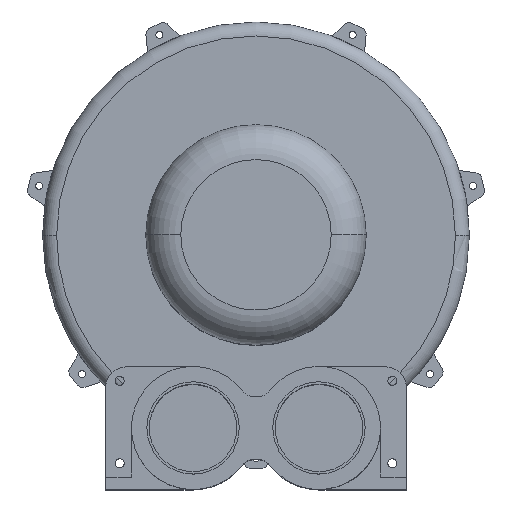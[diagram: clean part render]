
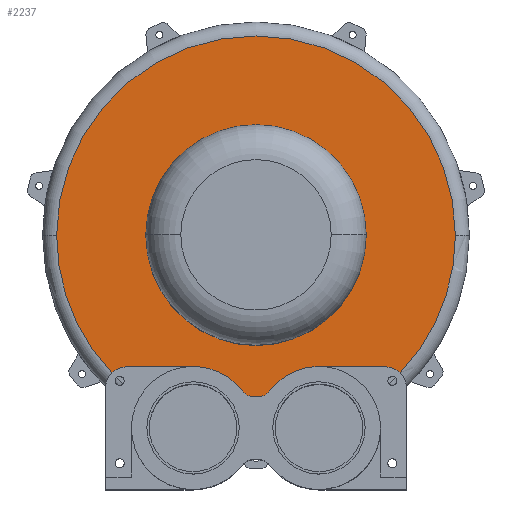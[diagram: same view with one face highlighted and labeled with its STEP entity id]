
A CAD part, top view. The second image highlights one B-rep face of the part: STEP entity #2237.
In plain terms, the highlighted planar face has unit normal (0, 0, 1).
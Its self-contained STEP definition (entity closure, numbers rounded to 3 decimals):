
#11 = CARTESIAN_POINT ( 'NONE',  ( -157.5, 0., 95. ) ) ;
#51 = DIRECTION ( 'NONE',  ( -1., 0., 0. ) ) ;
#64 = ORIENTED_EDGE ( 'NONE', *, *, #4167, .T. ) ;
#113 = ORIENTED_EDGE ( 'NONE', *, *, #3555, .F. ) ;
#132 = DIRECTION ( 'NONE',  ( 0., 0., 1. ) ) ;
#165 = AXIS2_PLACEMENT_3D ( 'NONE', #4765, #2497, #170 ) ;
#170 = DIRECTION ( 'NONE',  ( 1., 0., 0. ) ) ;
#225 = CARTESIAN_POINT ( 'NONE',  ( 0., 0., 95. ) ) ;
#250 = CIRCLE ( 'NONE', #4587, 30. ) ;
#251 = ORIENTED_EDGE ( 'NONE', *, *, #2907, .F. ) ;
#263 = CARTESIAN_POINT ( 'NONE',  ( 0., 0., 95. ) ) ;
#280 = CARTESIAN_POINT ( 'NONE',  ( 185., -218., 95. ) ) ;
#301 = AXIS2_PLACEMENT_3D ( 'NONE', #3955, #1663, #4335 ) ;
#545 = LINE ( 'NONE', #3560, #4632 ) ;
#626 = CIRCLE ( 'NONE', #1360, 88. ) ;
#628 = DIRECTION ( 'NONE',  ( 1., 0., 0. ) ) ;
#643 = VERTEX_POINT ( 'NONE', #2839 ) ;
#664 = DIRECTION ( 'NONE',  ( 1., 0., 0. ) ) ;
#682 = DIRECTION ( 'NONE',  ( 1., 0., 0. ) ) ;
#731 = AXIS2_PLACEMENT_3D ( 'NONE', #791, #3512, #1192 ) ;
#768 = CARTESIAN_POINT ( 'NONE',  ( 0., 0., 95. ) ) ;
#791 = CARTESIAN_POINT ( 'NONE',  ( -6.28, -216., 95. ) ) ;
#884 = VERTEX_POINT ( 'NONE', #3000 ) ;
#967 = AXIS2_PLACEMENT_3D ( 'NONE', #768, #3475, #1163 ) ;
#976 = CARTESIAN_POINT ( 'NONE',  ( 185., -188., 95. ) ) ;
#997 = AXIS2_PLACEMENT_3D ( 'NONE', #4646, #2364, #51 ) ;
#1030 = CARTESIAN_POINT ( 'NONE',  ( 185., -188., 95. ) ) ;
#1148 = CARTESIAN_POINT ( 'NONE',  ( -185., -218., 95. ) ) ;
#1163 = DIRECTION ( 'NONE',  ( 1., 0., 0. ) ) ;
#1192 = DIRECTION ( 'NONE',  ( -1., 0., 0. ) ) ;
#1237 = CIRCLE ( 'NONE', #967, 157.5 ) ;
#1360 = AXIS2_PLACEMENT_3D ( 'NONE', #2459, #132, #2854 ) ;
#1389 = VERTEX_POINT ( 'NONE', #1706 ) ;
#1399 = ORIENTED_EDGE ( 'NONE', *, *, #3351, .F. ) ;
#1537 = DIRECTION ( 'NONE',  ( 1., 0., 0. ) ) ;
#1583 = VERTEX_POINT ( 'NONE', #1823 ) ;
#1663 = DIRECTION ( 'NONE',  ( 0., 0., -1. ) ) ;
#1702 = ORIENTED_EDGE ( 'NONE', *, *, #3099, .T. ) ;
#1706 = CARTESIAN_POINT ( 'NONE',  ( -6.28, -231., 95. ) ) ;
#1709 = ORIENTED_EDGE ( 'NONE', *, *, #4803, .F. ) ;
#1735 = VERTEX_POINT ( 'NONE', #2115 ) ;
#1777 = CARTESIAN_POINT ( 'NONE',  ( 0., 0., 95. ) ) ;
#1779 = AXIS2_PLACEMENT_3D ( 'NONE', #1148, #3848, #1537 ) ;
#1798 = FACE_OUTER_BOUND ( 'NONE', #2825, .T. ) ;
#1809 = VERTEX_POINT ( 'NONE', #976 ) ;
#1823 = CARTESIAN_POINT ( 'NONE',  ( 6.28, -231., 95. ) ) ;
#1959 = ORIENTED_EDGE ( 'NONE', *, *, #3290, .F. ) ;
#1982 = ORIENTED_EDGE ( 'NONE', *, *, #3047, .T. ) ;
#2011 = CIRCLE ( 'NONE', #1779, 30. ) ;
#2033 = ORIENTED_EDGE ( 'NONE', *, *, #3419, .F. ) ;
#2043 = ORIENTED_EDGE ( 'NONE', *, *, #2829, .F. ) ;
#2115 = CARTESIAN_POINT ( 'NONE',  ( -285., 0., 95. ) ) ;
#2154 = DIRECTION ( 'NONE',  ( 1., 0., 0. ) ) ;
#2189 = DIRECTION ( 'NONE',  ( 1., 0., 0. ) ) ;
#2201 = VERTEX_POINT ( 'NONE', #4452 ) ;
#2237 = ADVANCED_FACE ( 'NONE', ( #3179, #1798 ), #4106, .T. ) ;
#2319 = CARTESIAN_POINT ( 'NONE',  ( 206.183, -196.757, 95. ) ) ;
#2364 = DIRECTION ( 'NONE',  ( 0., 0., 1. ) ) ;
#2396 = DIRECTION ( 'NONE',  ( -1., 0., 0. ) ) ;
#2459 = CARTESIAN_POINT ( 'NONE',  ( 90., -276., 95. ) ) ;
#2463 = VERTEX_POINT ( 'NONE', #4257 ) ;
#2469 = VERTEX_POINT ( 'NONE', #11 ) ;
#2476 = VERTEX_POINT ( 'NONE', #3516 ) ;
#2494 = CIRCLE ( 'NONE', #2538, 285. ) ;
#2497 = DIRECTION ( 'NONE',  ( 0., 0., 1. ) ) ;
#2538 = AXIS2_PLACEMENT_3D ( 'NONE', #263, #2996, #664 ) ;
#2715 = AXIS2_PLACEMENT_3D ( 'NONE', #1777, #4451, #2154 ) ;
#2719 = DIRECTION ( 'NONE',  ( -1., 0., 0. ) ) ;
#2772 = EDGE_CURVE ( 'NONE', #2469, #2926, #4682, .T. ) ;
#2798 = LINE ( 'NONE', #4240, #4804 ) ;
#2825 = EDGE_LOOP ( 'NONE', ( #2043, #251, #1982, #64, #1702, #3802, #1959, #1399, #2033, #113, #4718, #3855 ) ) ;
#2829 = EDGE_CURVE ( 'NONE', #1809, #2476, #4589, .T. ) ;
#2839 = CARTESIAN_POINT ( 'NONE',  ( 285., 0., 95. ) ) ;
#2854 = DIRECTION ( 'NONE',  ( 1., 0., 0. ) ) ;
#2893 = EDGE_LOOP ( 'NONE', ( #3568, #1709 ) ) ;
#2907 = EDGE_CURVE ( 'NONE', #4104, #1809, #250, .T. ) ;
#2926 = VERTEX_POINT ( 'NONE', #4523 ) ;
#2958 = AXIS2_PLACEMENT_3D ( 'NONE', #3344, #4480, #2189 ) ;
#2961 = DIRECTION ( 'NONE',  ( 0., 0., 1. ) ) ;
#2996 = DIRECTION ( 'NONE',  ( 0., 0., 1. ) ) ;
#3000 = CARTESIAN_POINT ( 'NONE',  ( -206.183, -196.757, 95. ) ) ;
#3016 = DIRECTION ( 'NONE',  ( 0., 0., 1. ) ) ;
#3047 = EDGE_CURVE ( 'NONE', #4104, #643, #3657, .T. ) ;
#3080 = CARTESIAN_POINT ( 'NONE',  ( 18.472, -224.738, 95. ) ) ;
#3099 = EDGE_CURVE ( 'NONE', #1735, #884, #2494, .T. ) ;
#3179 = FACE_BOUND ( 'NONE', #2893, .T. ) ;
#3259 = EDGE_CURVE ( 'NONE', #3996, #884, #2011, .T. ) ;
#3275 = VERTEX_POINT ( 'NONE', #3080 ) ;
#3290 = EDGE_CURVE ( 'NONE', #2201, #3996, #2798, .T. ) ;
#3344 = CARTESIAN_POINT ( 'NONE',  ( 0., 0., 95. ) ) ;
#3351 = EDGE_CURVE ( 'NONE', #2463, #2201, #4583, .T. ) ;
#3419 = EDGE_CURVE ( 'NONE', #1389, #2463, #4120, .T. ) ;
#3475 = DIRECTION ( 'NONE',  ( 0., 0., 1. ) ) ;
#3496 = AXIS2_PLACEMENT_3D ( 'NONE', #225, #2961, #628 ) ;
#3512 = DIRECTION ( 'NONE',  ( 0., 0., -1. ) ) ;
#3516 = CARTESIAN_POINT ( 'NONE',  ( 90., -188., 95. ) ) ;
#3555 = EDGE_CURVE ( 'NONE', #1583, #1389, #545, .T. ) ;
#3560 = CARTESIAN_POINT ( 'NONE',  ( 6.28, -231., 95. ) ) ;
#3568 = ORIENTED_EDGE ( 'NONE', *, *, #2772, .F. ) ;
#3596 = CIRCLE ( 'NONE', #165, 285. ) ;
#3598 = VECTOR ( 'NONE', #3738, 1000. ) ;
#3613 = EDGE_CURVE ( 'NONE', #3275, #1583, #4811, .T. ) ;
#3657 = CIRCLE ( 'NONE', #3496, 285. ) ;
#3685 = EDGE_CURVE ( 'NONE', #2476, #3275, #626, .T. ) ;
#3738 = DIRECTION ( 'NONE',  ( -1., 0., 0. ) ) ;
#3802 = ORIENTED_EDGE ( 'NONE', *, *, #3259, .F. ) ;
#3848 = DIRECTION ( 'NONE',  ( 0., 0., 1. ) ) ;
#3855 = ORIENTED_EDGE ( 'NONE', *, *, #3685, .F. ) ;
#3955 = CARTESIAN_POINT ( 'NONE',  ( 6.28, -216., 95. ) ) ;
#3996 = VERTEX_POINT ( 'NONE', #4547 ) ;
#4104 = VERTEX_POINT ( 'NONE', #2319 ) ;
#4106 = PLANE ( 'NONE',  #2958 ) ;
#4120 = CIRCLE ( 'NONE', #731, 15. ) ;
#4167 = EDGE_CURVE ( 'NONE', #643, #1735, #3596, .T. ) ;
#4240 = CARTESIAN_POINT ( 'NONE',  ( -90., -188., 95. ) ) ;
#4257 = CARTESIAN_POINT ( 'NONE',  ( -18.472, -224.738, 95. ) ) ;
#4335 = DIRECTION ( 'NONE',  ( 1., 0., 0. ) ) ;
#4451 = DIRECTION ( 'NONE',  ( 0., 0., 1. ) ) ;
#4452 = CARTESIAN_POINT ( 'NONE',  ( -90., -188., 95. ) ) ;
#4480 = DIRECTION ( 'NONE',  ( 0., 0., 1. ) ) ;
#4523 = CARTESIAN_POINT ( 'NONE',  ( 157.5, 0., 95. ) ) ;
#4547 = CARTESIAN_POINT ( 'NONE',  ( -185., -188., 95. ) ) ;
#4583 = CIRCLE ( 'NONE', #997, 88. ) ;
#4587 = AXIS2_PLACEMENT_3D ( 'NONE', #280, #3016, #682 ) ;
#4589 = LINE ( 'NONE', #1030, #3598 ) ;
#4632 = VECTOR ( 'NONE', #2396, 1000. ) ;
#4646 = CARTESIAN_POINT ( 'NONE',  ( -90., -276., 95. ) ) ;
#4682 = CIRCLE ( 'NONE', #2715, 157.5 ) ;
#4718 = ORIENTED_EDGE ( 'NONE', *, *, #3613, .F. ) ;
#4765 = CARTESIAN_POINT ( 'NONE',  ( 0., 0., 95. ) ) ;
#4803 = EDGE_CURVE ( 'NONE', #2926, #2469, #1237, .T. ) ;
#4804 = VECTOR ( 'NONE', #2719, 1000. ) ;
#4811 = CIRCLE ( 'NONE', #301, 15. ) ;
